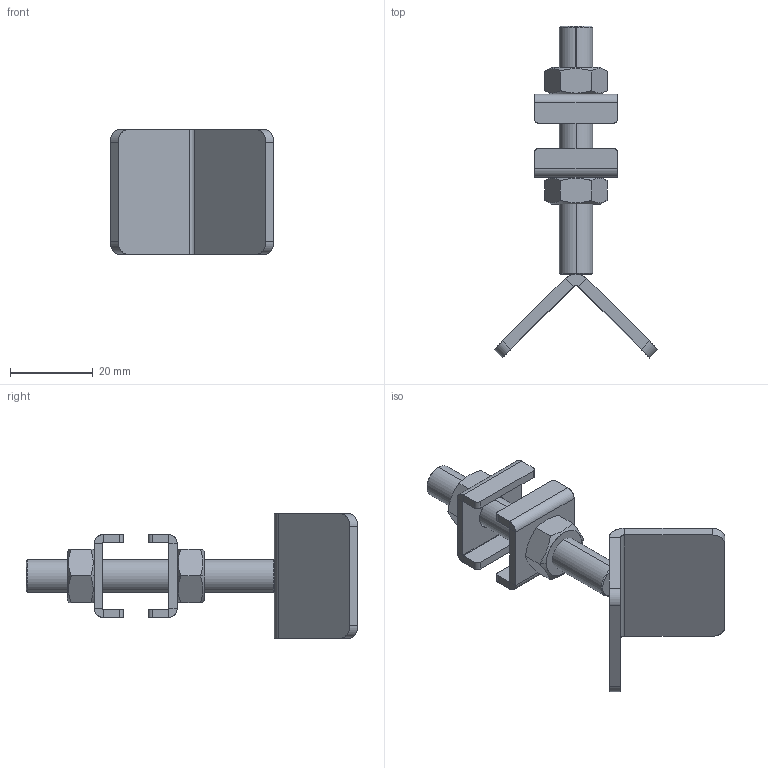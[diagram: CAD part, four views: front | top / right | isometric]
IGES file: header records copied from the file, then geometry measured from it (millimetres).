
Start section: SolidWorks IGES file using analytic representation for surfaces
Global section: file name: C:\Projetos\Ponteiras\PCA\PCA-M8.IGS; native system: SolidWorks 2011; preprocessor: SolidWorks 2011; author: Usuario; date: 110523.170440; units: millimetre
Bounding box: 39.6 x 80.19 x 30 mm (x, y, z)
Surface area: 8963.6 mm2 (no closed solid volume)
Topology: 0 solids, 0 shells, 118 faces, 1516 edges, 1516 vertices
Faces by surface type: bspline 66, revolution 52
